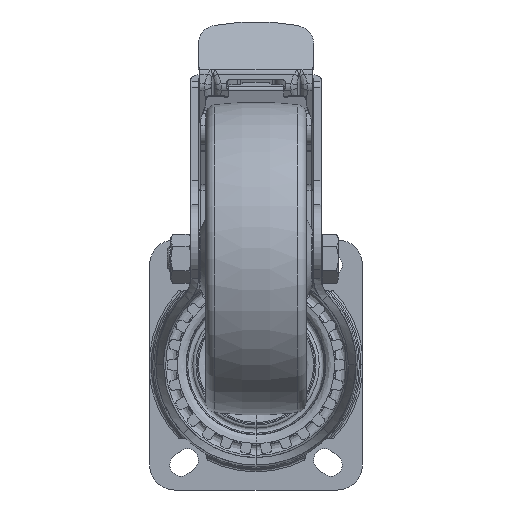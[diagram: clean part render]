
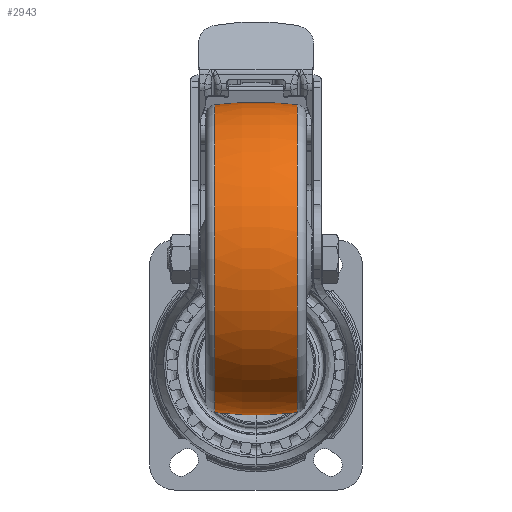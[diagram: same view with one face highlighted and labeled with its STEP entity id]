
A CAD part, front view. The second image highlights one B-rep face of the part: STEP entity #2943.
In plain terms, the highlighted toroidal (fillet/blend) face has major radius 67.5 mm and minor radius 130 mm.
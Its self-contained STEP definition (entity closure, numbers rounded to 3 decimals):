
#2841 = CARTESIAN_POINT ( 'NONE',  ( 16.508, 0., 0. ) ) ;
#2943 = ADVANCED_FACE ( 'NONE', ( #100291 ), #62724, .T. ) ;
#4021 = CARTESIAN_POINT ( 'NONE',  ( 0., 0., 0. ) ) ;
#4703 = ORIENTED_EDGE ( 'NONE', *, *, #61692, .T. ) ;
#7484 = VERTEX_POINT ( 'NONE', #22545 ) ;
#12672 = VERTEX_POINT ( 'NONE', #116420 ) ;
#15072 = DIRECTION ( 'NONE',  ( -1., 0., 0. ) ) ;
#22545 = CARTESIAN_POINT ( 'NONE',  ( -16.508, 61.448, 0. ) ) ;
#22965 = DIRECTION ( 'NONE',  ( -1., 0., 0. ) ) ;
#24556 = EDGE_CURVE ( 'NONE', #12672, #28788, #55892, .T. ) ;
#24785 = DIRECTION ( 'NONE',  ( 0.127, -0.992, 0. ) ) ;
#25988 = CARTESIAN_POINT ( 'NONE',  ( 0., 67.5, 0. ) ) ;
#28788 = VERTEX_POINT ( 'NONE', #109468 ) ;
#30110 = AXIS2_PLACEMENT_3D ( 'NONE', #57910, #113658, #67144 ) ;
#34158 = CIRCLE ( 'NONE', #35600, 61.448 ) ;
#35600 = AXIS2_PLACEMENT_3D ( 'NONE', #98284, #15072, #60730 ) ;
#52583 = DIRECTION ( 'NONE',  ( 0., 0., -1. ) ) ;
#55892 = CIRCLE ( 'NONE', #89222, 61.448 ) ;
#57744 = ORIENTED_EDGE ( 'NONE', *, *, #24556, .T. ) ;
#57910 = CARTESIAN_POINT ( 'NONE',  ( 0., -67.5, 0. ) ) ;
#59346 = DIRECTION ( 'NONE',  ( 0., -1., 0. ) ) ;
#60730 = DIRECTION ( 'NONE',  ( 0., -1., 0. ) ) ;
#61692 = EDGE_CURVE ( 'NONE', #28788, #7484, #110983, .T. ) ;
#62724 = TOROIDAL_SURFACE ( 'NONE', #88085, -67.5, 130. ) ;
#64433 = AXIS2_PLACEMENT_3D ( 'NONE', #25988, #52583, #24785 ) ;
#67144 = DIRECTION ( 'NONE',  ( 0.127, 0.992, 0. ) ) ;
#68423 = VERTEX_POINT ( 'NONE', #94086 ) ;
#88085 = AXIS2_PLACEMENT_3D ( 'NONE', #4021, #104620, #105809 ) ;
#89222 = AXIS2_PLACEMENT_3D ( 'NONE', #2841, #22965, #59346 ) ;
#90405 = ORIENTED_EDGE ( 'NONE', *, *, #93376, .F. ) ;
#93376 = EDGE_CURVE ( 'NONE', #12672, #68423, #106188, .T. ) ;
#94086 = CARTESIAN_POINT ( 'NONE',  ( -16.508, -61.448, 0. ) ) ;
#95647 = EDGE_LOOP ( 'NONE', ( #57744, #4703, #110478, #90405 ) ) ;
#98284 = CARTESIAN_POINT ( 'NONE',  ( -16.508, 0., 0. ) ) ;
#100291 = FACE_OUTER_BOUND ( 'NONE', #95647, .T. ) ;
#101032 = EDGE_CURVE ( 'NONE', #68423, #7484, #34158, .T. ) ;
#104620 = DIRECTION ( 'NONE',  ( -1., 0., 0. ) ) ;
#105809 = DIRECTION ( 'NONE',  ( 0., -1., 0. ) ) ;
#106188 = CIRCLE ( 'NONE', #64433, 130. ) ;
#109468 = CARTESIAN_POINT ( 'NONE',  ( 16.508, 61.448, 0. ) ) ;
#110478 = ORIENTED_EDGE ( 'NONE', *, *, #101032, .F. ) ;
#110983 = CIRCLE ( 'NONE', #30110, 130. ) ;
#113658 = DIRECTION ( 'NONE',  ( 0., 0., 1. ) ) ;
#116420 = CARTESIAN_POINT ( 'NONE',  ( 16.508, -61.448, 0. ) ) ;
